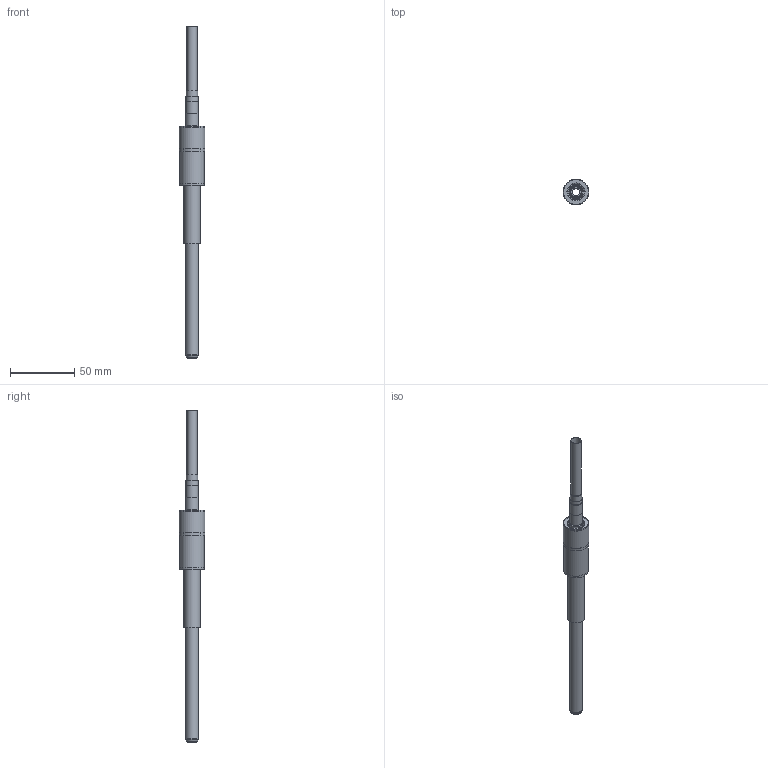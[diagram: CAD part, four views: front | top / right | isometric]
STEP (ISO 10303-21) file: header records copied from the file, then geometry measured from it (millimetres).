
FILE_DESCRIPTION(('STEP AP214'),'1');
FILE_NAME('LC-10200.stp','2025-10-28T13:27:05',(' '),(' '),'Spatial InterOp 3D',' ',' ');
FILE_SCHEMA(('AUTOMOTIVE_DESIGN { 1 0 10303 214 1 1 1 1 }'));
Length unit declared in the file: metre
Products named in the file (6): LC-10SU; LC-10SU-SEDE; LC-10P200-SEDE; LC-10P200
Bounding box: 20 x 20 x 257.75 mm (x, y, z)
Volume: 18869.6 mm3; surface area: 22887.2 mm2
Topology: 2 solids, 6 shells, 51 faces, 114 edges, 78 vertices
Faces by surface type: plane 23, cylinder 15, cone 10, torus 3
Full cylindrical faces by diameter (mm): 6 x1, 8 x1, 8.8 x1, 9.8 x1, 10 x2, 10.5 x1, 13 x1, 14 x1, 14.5 x1, 18.9 x1, 19 x1, 20 x1
Entity records: 2116 total; most frequent: CARTESIAN_POINT 281, DIRECTION 230, ORIENTED_EDGE 140, STYLED_ITEM 114, PRESENTATION_STYLE_ASSIGNMENT 114, COLOUR_RGB 114, AXIS2_PLACEMENT_3D 103, EDGE_LOOP 90
